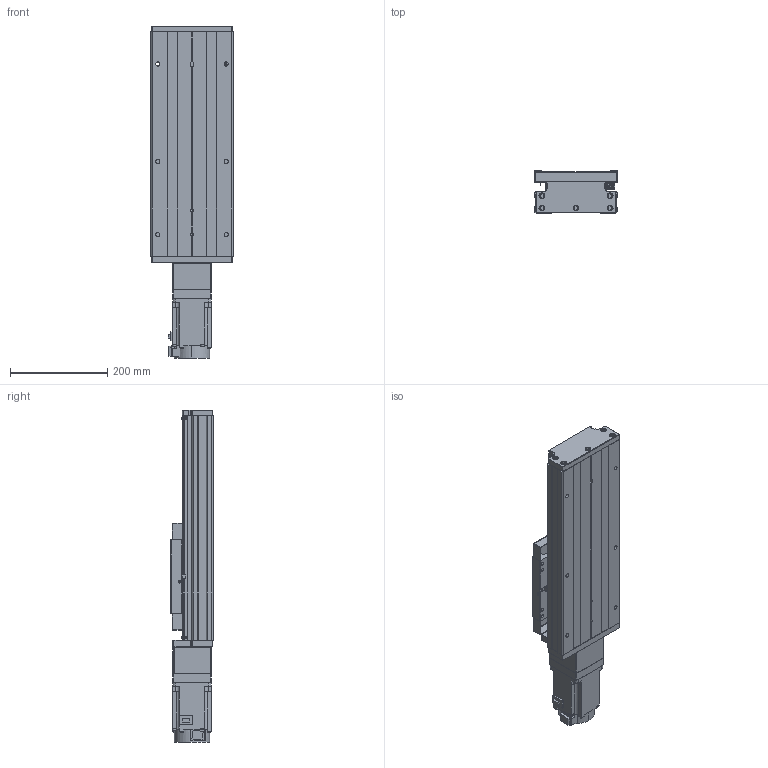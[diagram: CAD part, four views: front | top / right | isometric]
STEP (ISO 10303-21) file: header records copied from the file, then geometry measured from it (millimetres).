
FILE_DESCRIPTION (( 'STEP AP203' ), '1' );
FILE_NAME ('GTH17-200-BC-M75-C4.step', '2023-06-30T11:20:51', ( '微软用户' ), ( '微软中国' ), 'SwSTEP 2.0', 'SolidWorks 2020', '' );
FILE_SCHEMA (( 'CONFIG_CONTROL_DESIGN' ));
Length unit declared in the file: millimetre
Products named in the file (20): CTHA60-017; GBT 70.2-M3¡Á5_M3¡Á6; GTH17-200-BC-M75-C4; EE_SX911P_R; す晦芛蹟隊 M3℅5; GTH17-001_200; CTHA60-016; GBT 70.3-M3℅8; GTH17-002_GTH17-002; GBT 70.1-M3℅5; GTH17-006-2_M75; GTH17-004; GBT77-2000 M3×3; GTH17-013; GTH17-005; GBT 70.1-M6¡Á20_M6¡Á20; GTH17-027-1; GB1155-6X6; GTH17-031; HG-KN73J-S100
Assembly tree (57 placements, depth 2):
  GTH17-200-BC-M75-C4
    GTH17-001_200
    GTH17-002_GTH17-002
    GTH17-004
    GTH17-005
    GB1155-6X6  x2
    CTHA60-017  x3
    EE_SX911P_R  x3
    CTHA60-016  x2
    GBT 70.1-M3℅5  x6
    GBT77-2000 M3×3  x6
    GBT 70.1-M6¡Á20_M6¡Á20  x10
    GTH17-031
    GBT 70.2-M3¡Á5_M3¡Á6  x8
    す晦芛蹟隊 M3℅5  x6
    GBT 70.3-M3℅8  x2
    GTH17-006-2_M75
    GTH17-013
    GTH17-027-1
    HG-KN73J-S100
Bounding box: 171 x 87 x 681.2 mm (x, y, z)
Volume: 5226097.1 mm3; surface area: 752824.6 mm2
Topology: 60 solids, 60 shells, 2384 faces, 5701 edges, 3531 vertices
Faces by surface type: plane 1299, cylinder 638, cone 287, torus 120, sphere 20, bspline 20
Entity records: 44221 total; most frequent: CARTESIAN_POINT 10277, DIRECTION 6357, ORIENTED_EDGE 6318, EDGE_CURVE 3159, AXIS2_PLACEMENT_3D 2145, VECTOR 2067, LINE 2067, VERTEX_POINT 1999
